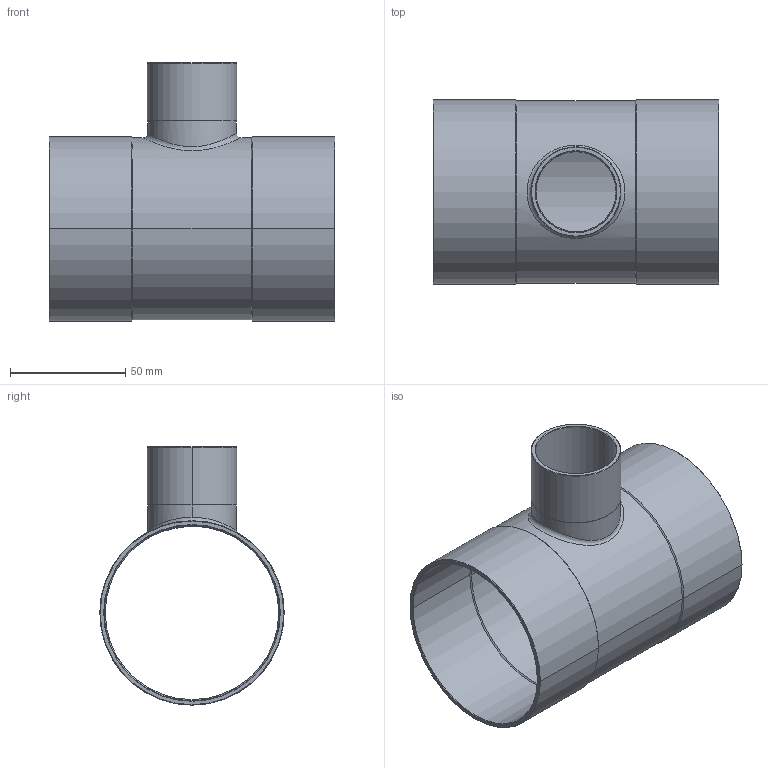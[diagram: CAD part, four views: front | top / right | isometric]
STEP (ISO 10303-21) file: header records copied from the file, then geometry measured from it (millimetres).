
FILE_DESCRIPTION((''),'2;1');
FILE_NAME('G:\Technics\CAD\Bauteile\15130\15130763576.stp','2005-11-02T10:20:00',('boden'),(''),'Autodesk Inventor 8','Autodesk Inventor 8','');
FILE_SCHEMA(('AUTOMOTIVE_DESIGN { 1 0 10303 214 1 1 1 1 }'));
Length unit declared in the file: millimetre
Products named in the file (1): 15130763576
Bounding box: 124 x 80 x 112 mm (x, y, z)
Volume: 63303.3 mm3; surface area: 67687.1 mm2
Topology: 1 solids, 1 shells, 49 faces, 102 edges, 56 vertices
Faces by surface type: cone 24, cylinder 20, plane 3, bspline 2
Entity records: 1659 total; most frequent: CARTESIAN_POINT 580, DIRECTION 240, ORIENTED_EDGE 204, EDGE_CURVE 102, AXIS2_PLACEMENT_3D 98, VERTEX_POINT 56, EDGE_LOOP 54, CIRCLE 50
